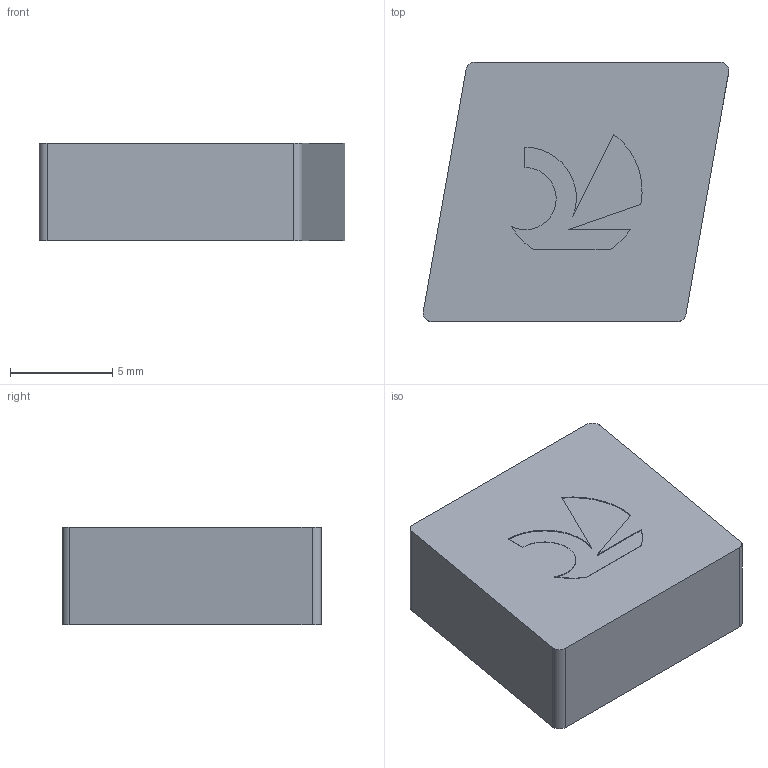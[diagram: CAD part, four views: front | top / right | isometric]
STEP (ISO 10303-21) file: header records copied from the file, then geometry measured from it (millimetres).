
FILE_DESCRIPTION(('no description'),'unknown implementation level');
FILE_NAME('solidhFXpppffuhnfXhX34Krb41iOGn8_1.STP',' ',('CIMSOURCE GmbH'),('CADClick - KiM GmbH - www.kimweb.de'),'unknown preprocess','ACIS','unknown authorization');
FILE_SCHEMA(('automotive_design'));
Length unit declared in the file: millimetre
Products named in the file (1): CUT
Bounding box: 14.98 x 12.7 x 4.76 mm (x, y, z)
Volume: 778.6 mm3; surface area: 571 mm2
Topology: 1 solids, 1 shells, 22 faces, 57 edges, 38 vertices
Faces by surface type: plane 12, cylinder 10
Entity records: 1366 total; most frequent: DIRECTION 127, CARTESIAN_POINT 120, STYLED_ITEM 118, PRESENTATION_STYLE_ASSIGNMENT 118, COLOUR_RGB 118, ORIENTED_EDGE 114, EDGE_CURVE 57, CURVE_STYLE 57
